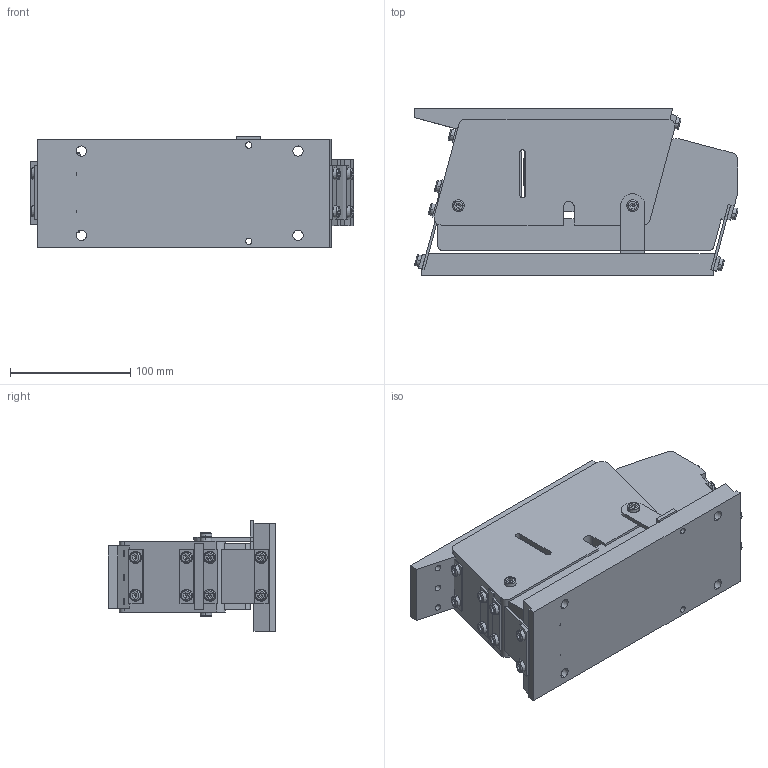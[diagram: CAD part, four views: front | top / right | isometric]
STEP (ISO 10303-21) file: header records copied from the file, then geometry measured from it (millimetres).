
FILE_DESCRIPTION (( 'STEP AP203' ), '1' );
FILE_NAME ('ZA200 翋极 01.STEP', '2025-06-01T00:43:34', ( '' ), ( '' ), 'SwSTEP 2.0', 'SolidWorks 2022', '' );
FILE_SCHEMA (( 'CONFIG_CONTROL_DESIGN' ));
Length unit declared in the file: millimetre
Products named in the file (1): ZA200 翋极 01
Bounding box: 269.1 x 139 x 92 mm (x, y, z)
Volume: 1923494.4 mm3; surface area: 191200.8 mm2
Topology: 17 solids, 28 shells, 687 faces, 1528 edges, 944 vertices
Faces by surface type: plane 425, cylinder 169, cone 57, torus 36
Entity records: 19098 total; most frequent: CARTESIAN_POINT 3432, DIRECTION 3360, ORIENTED_EDGE 3056, EDGE_CURVE 1528, AXIS2_PLACEMENT_3D 1188, VECTOR 984, LINE 984, VERTEX_POINT 944
